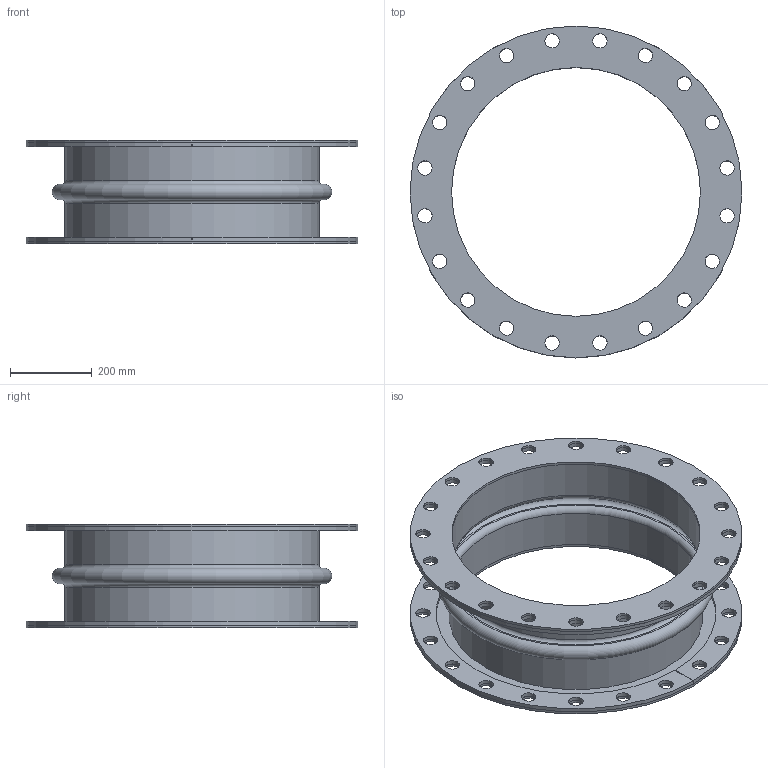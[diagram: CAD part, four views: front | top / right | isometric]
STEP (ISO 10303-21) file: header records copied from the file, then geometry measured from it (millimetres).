
FILE_DESCRIPTION(/* description */ (''),/* implementation_level */ '2;1');
FILE_NAME(/* name */ '24x10.stp',/* time_stamp */ '2026-07-21T16:23:32-05:00',/* author */ ('linda'),/* organization */ (''),/* preprocessor_version */ 'ST-DEVELOPER v20.1',/* originating_system */ 'Autodesk Inventor 2026',/* authorisation */ '');
FILE_SCHEMA (('AUTOMOTIVE_DESIGN { 1 0 10303 214 3 1 1 }'));
Length unit declared in the file: inch
Products named in the file (1): Part16
Bounding box: 812.8 x 812.8 x 254 mm (x, y, z)
Volume: 8633409.7 mm3; surface area: 2655594.3 mm2
Topology: 5 solids, 5 shells, 126 faces, 330 edges, 220 vertices
Faces by surface type: cylinder 96, plane 24, torus 6
Full cylindrical faces by diameter (mm): 35.052 x80, 609.6 x4, 622.3 x2, 812.8 x2
Entity records: 4513 total; most frequent: DIRECTION 794, CARTESIAN_POINT 677, ORIENTED_EDGE 660, AXIS2_PLACEMENT_3D 337, EDGE_CURVE 330, EDGE_LOOP 294, VERTEX_POINT 220, CIRCLE 210
